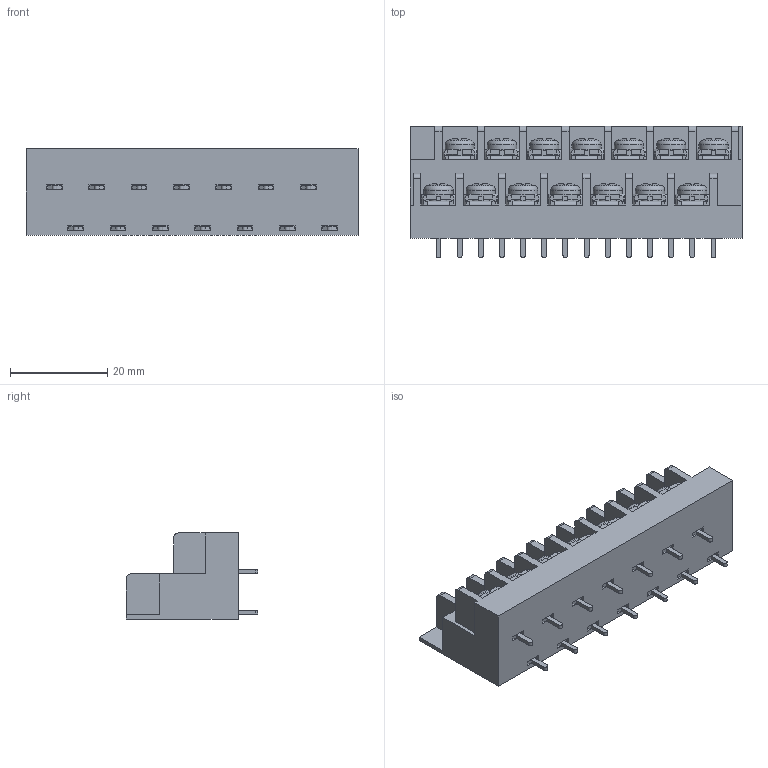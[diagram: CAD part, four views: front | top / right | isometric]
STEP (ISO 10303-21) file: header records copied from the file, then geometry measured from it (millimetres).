
FILE_DESCRIPTION(/* description */ ('Alibre Inc.'),/* implementation_level */ '2;1');
FILE_NAME(/* name */ 'export-BAAA1859-3224-413E-AB44-486C42F9BAEB',/* time_stamp */ '2021-02-09T10:58:53+09:00',/* author */ (''),/* organization */ (''),/* preprocessor_version */ 'ST-DEVELOPER v17',/* originating_system */ 'Alibre',/* authorisation */ '');
FILE_SCHEMA (('CONFIG_CONTROL_DESIGN'));
Length unit declared in the file: millimetre
Bounding box: 68.25 x 27 x 17.7 mm (x, y, z)
Volume: 17569 mm3; surface area: 11888.4 mm2
Topology: 1 solids, 31 shells, 2350 faces, 5866 edges, 3682 vertices
Faces by surface type: plane 1686, bspline 354, cylinder 128, extrusion 56, cone 56, torus 42, sphere 28
Full cylindrical faces by diameter (mm): 3.5 x28, 4.5 x14, 5 x14, 6 x14
Entity records: 73289 total; most frequent: CARTESIAN_POINT 23693, ORIENTED_EDGE 11396, DIRECTION 7285, EDGE_CURVE 5698, VECTOR 4016, LINE 3988, VERTEX_POINT 3626, EDGE_LOOP 2602
